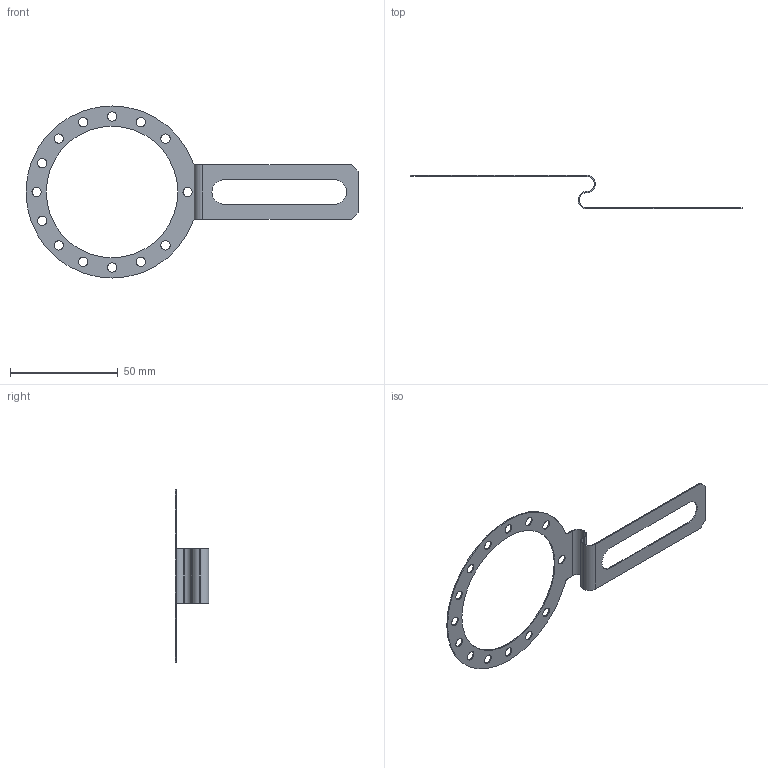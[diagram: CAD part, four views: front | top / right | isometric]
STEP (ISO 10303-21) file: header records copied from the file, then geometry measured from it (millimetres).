
FILE_DESCRIPTION (( 'STEP AP214' ), '1' );
FILE_NAME ('8.0010.4E00.0000.STEP', '2008-10-16T09:22:24', ( 'admin' ), ( 'Fritz Kübler GmbH' ), 'SwSTEP 2.0', 'SolidWorks 2008', '' );
FILE_SCHEMA (( 'AUTOMOTIVE_DESIGN' ));
Length unit declared in the file: millimetre
Products named in the file (1): 8.0010.4E00.0000
Bounding box: 153.9 x 15.5 x 79.8 mm (x, y, z)
Volume: 1841 mm3; surface area: 7846.2 mm2
Topology: 1 solids, 1 shells, 78 faces, 196 edges, 120 vertices
Faces by surface type: cylinder 45, plane 33
Entity records: 2597 total; most frequent: DIRECTION 444, CARTESIAN_POINT 395, ORIENTED_EDGE 392, EDGE_CURVE 196, AXIS2_PLACEMENT_3D 169, VERTEX_POINT 120, EDGE_LOOP 110, LINE 106
